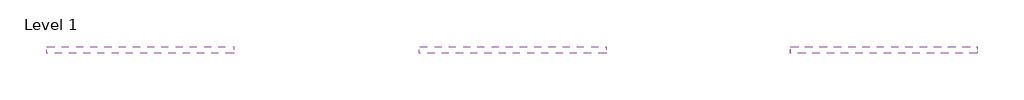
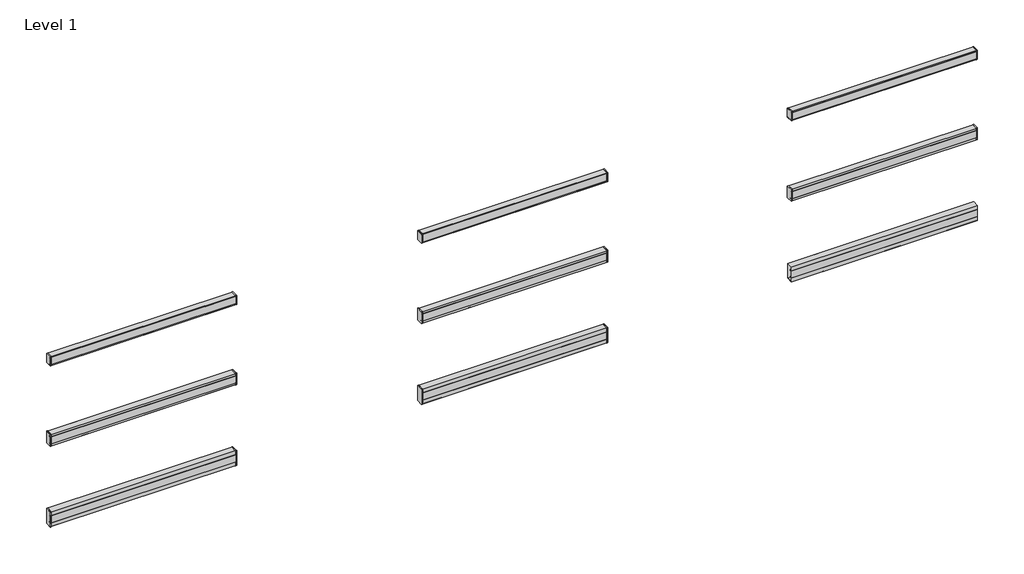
# One storey, incomplete: 9 proxies.
"""IFC4 building model written with IfcOpenShell, lengths in millimetres."""

from ifc_helpers import new_model, si_unit, origin, place, context, project, spatial, transform, mapped, element, save
from components import ral_7035_light_grey_e2f385a0, ral_7035_light_grey_59abf085, ral_7035_light_grey_bdd1ccd4, ral9011_graphite_black_5f1cb885

model = new_model("IFC4")

# Units and contexts
model_context = context("Model", 3, world=origin())
ifc_project = project(units=[si_unit("LENGTHUNIT", "METRE", prefix="MILLI")], contexts=[model_context])

# Site, building, storey
site = spatial("IfcSite", under=ifc_project)
building = spatial("IfcBuilding", under=site)
storey = spatial("IfcBuildingStorey", under=building, Name="Level 1", Elevation=4000.0)

# Proxies
placement = place(None, origin())
ral_7035_light_grey_shape = ral_7035_light_grey_e2f385a0(model_context)
element("IfcBuildingElementProxy", 1, Name="Electrical_Installations_Hager_BRP-Lid-End-Cap-One-Compartment : RAL 7035 - light grey", ObjectType="Electrical_Installations_Hager_BRP-Lid-End-Cap-One-Compartment : RAL 7035 - light grey", at=placement, inside=storey, context=model_context, shape_type="MappedRepresentation", body=[
    mapped(ral_7035_light_grey_shape, transform((-5591.8203528, 3986.0812827, 5415.2319977), x_axis=(-1.0, 0.0, 0.0), y_axis=(0.0, 0.0, -1.0), z_axis=(0.0, -1.0, 0.0))),
])
ral_7035_light_grey_2_shape = ral_7035_light_grey_59abf085(model_context)
element("IfcBuildingElementProxy", 2, Name="Electrical_Installations_Hager_BRP-Lid-End-Cap-One-Compartment : RAL 7035 - light grey", ObjectType="Electrical_Installations_Hager_BRP-Lid-End-Cap-One-Compartment : RAL 7035 - light grey", at=placement, inside=storey, context=model_context, shape_type="MappedRepresentation", body=[
    mapped(ral_7035_light_grey_2_shape, transform((-5591.8203528, 3986.0812827, 6315.2319977), x_axis=(-1.0, 0.0, 0.0), y_axis=(0.0, 0.0, -1.0), z_axis=(0.0, -1.0, 0.0))),
])
ral_7035_light_grey_3_shape = ral_7035_light_grey_bdd1ccd4(model_context)
element("IfcBuildingElementProxy", 3, Name="Electrical_Installations_Hager_BRP-Lid-End-Cap-One-Compartment : RAL 7035 - light grey", ObjectType="Electrical_Installations_Hager_BRP-Lid-End-Cap-One-Compartment : RAL 7035 - light grey", at=placement, inside=storey, context=model_context, shape_type="MappedRepresentation", body=[
    mapped(ral_7035_light_grey_3_shape, transform((-5591.8203528, 3986.0812827, 7215.2319977), x_axis=(-1.0, 0.0, 0.0), y_axis=(0.0, 0.0, -1.0), z_axis=(0.0, -1.0, 0.0))),
])
element("IfcBuildingElementProxy", 4, Name="Electrical_Installations_Hager_BRP-Lid-End-Cap-One-Compartment : RAL 9010 - pure white", ObjectType="Electrical_Installations_Hager_BRP-Lid-End-Cap-One-Compartment : RAL 9010 - pure white", at=placement, inside=storey, context=model_context, shape_type="MappedRepresentation", body=[
    mapped(ral_7035_light_grey_3_shape, transform((-9585.8318898, 3986.0812827, 7215.2319977), x_axis=(-1.0, 0.0, 0.0), y_axis=(0.0, 0.0, -1.0), z_axis=(0.0, -1.0, 0.0))),
])
element("IfcBuildingElementProxy", 5, Name="Electrical_Installations_Hager_BRP-Lid-End-Cap-One-Compartment : RAL 9010 - pure white", ObjectType="Electrical_Installations_Hager_BRP-Lid-End-Cap-One-Compartment : RAL 9010 - pure white", at=placement, inside=storey, context=model_context, shape_type="MappedRepresentation", body=[
    mapped(ral_7035_light_grey_2_shape, transform((-9585.8318898, 3986.0812827, 6315.2319977), x_axis=(-1.0, 0.0, 0.0), y_axis=(0.0, 0.0, -1.0), z_axis=(0.0, -1.0, 0.0))),
])
element("IfcBuildingElementProxy", 6, Name="Electrical_Installations_Hager_BRP-Lid-End-Cap-One-Compartment : RAL 9010 - pure white", ObjectType="Electrical_Installations_Hager_BRP-Lid-End-Cap-One-Compartment : RAL 9010 - pure white", at=placement, inside=storey, context=model_context, shape_type="MappedRepresentation", body=[
    mapped(ral_7035_light_grey_shape, transform((-9585.8318898, 3986.0812827, 5415.2), x_axis=(-1.0, 0.0, 0.0), y_axis=(0.0, 0.0, -1.0), z_axis=(0.0, -1.0, 0.0))),
])
ral9011_graphite_black_shape = ral9011_graphite_black_5f1cb885(model_context)
element("IfcBuildingElementProxy", 7, Name="Electrical_Installations_Hager_BRP-Lid-End-Cap-One-Compartment : RAL9011 - graphite black", ObjectType="Electrical_Installations_Hager_BRP-Lid-End-Cap-One-Compartment : RAL9011 - graphite black", at=placement, inside=storey, context=model_context, shape_type="MappedRepresentation", body=[
    mapped(ral9011_graphite_black_shape, transform((-1615.8240524, 3986.0812827, 5415.2319977), x_axis=(-1.0, 0.0, 0.0), y_axis=(0.0, 0.0, -1.0), z_axis=(0.0, -1.0, 0.0))),
])
element("IfcBuildingElementProxy", 8, Name="Electrical_Installations_Hager_BRP-Lid-End-Cap-One-Compartment : RAL9011 - graphite black", ObjectType="Electrical_Installations_Hager_BRP-Lid-End-Cap-One-Compartment : RAL9011 - graphite black", at=placement, inside=storey, context=model_context, shape_type="MappedRepresentation", body=[
    mapped(ral_7035_light_grey_2_shape, transform((-1615.8240524, 3986.0812827, 6315.2319977), x_axis=(-1.0, 0.0, 0.0), y_axis=(0.0, 0.0, -1.0), z_axis=(0.0, -1.0, 0.0))),
])
element("IfcBuildingElementProxy", 9, Name="Electrical_Installations_Hager_BRP-Lid-End-Cap-One-Compartment : RAL9011 - graphite black", ObjectType="Electrical_Installations_Hager_BRP-Lid-End-Cap-One-Compartment : RAL9011 - graphite black", at=placement, inside=storey, context=model_context, shape_type="MappedRepresentation", body=[
    mapped(ral_7035_light_grey_3_shape, transform((-1615.8240524, 3986.0812827, 7215.2319977), x_axis=(-1.0, 0.0, 0.0), y_axis=(0.0, 0.0, -1.0), z_axis=(0.0, -1.0, 0.0))),
])

save(model, "model.ifc")
